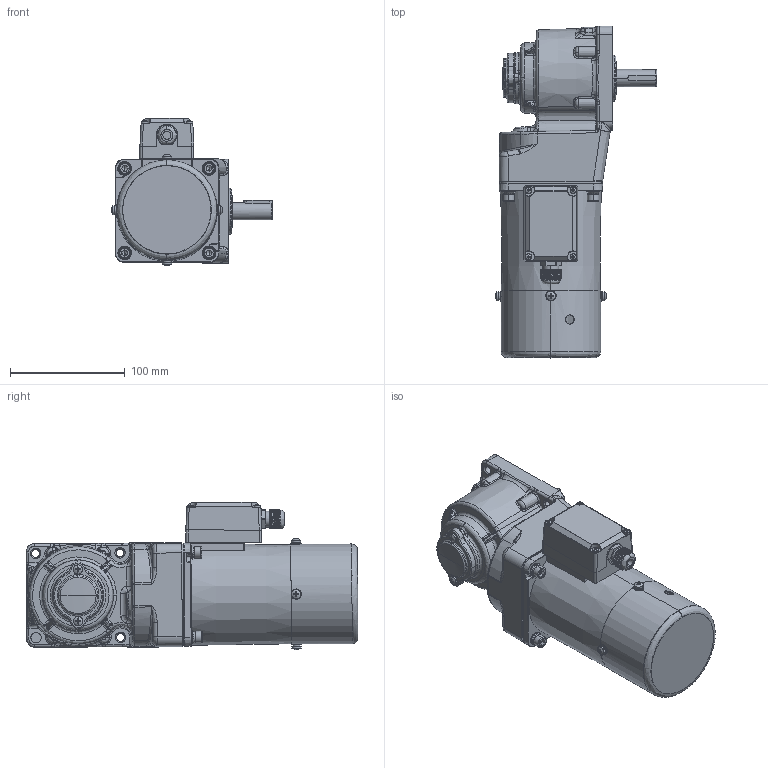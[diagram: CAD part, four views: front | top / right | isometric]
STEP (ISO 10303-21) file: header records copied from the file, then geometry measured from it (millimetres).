
FILE_DESCRIPTION (( 'STEP AP203' ), '1' );
FILE_NAME ('5RK40GU-CMT(5GU3RT-180RT)ÐÂ.STEP', '2023-08-17T06:32:41', ( 'Windows User' ), ( 'P R C' ), 'SwSTEP 2.0', 'SolidWorks 2019', '' );
FILE_SCHEMA (( 'CONFIG_CONTROL_DESIGN' ));
Length unit declared in the file: millimetre
Products named in the file (10): zd-5gu-50rc-504-001m#________ 2021-12-07 - ____^5RK40GU-CMT(5GU3RT-180RT)陔(2)_5RK40GU-CMT(5GU3RT-180RT)陔; 90__________^5RK40GU-CMT(5GU3RT-180RT)陔(2)_5RK40GU-CMT(5GU3RT-180RT)陔; 90RT____________^5RK40GU-CMT(5GU3RT-180RT)陔(2)_5RK40GU-CMT(5GU3RT-180RT)陔; 5RK40GU-CMT(5GU3RT-180RT)陔(2)^5RK40GU-CMT(5GU3RT-180RT)陔; 5RK40GU-CMT(5GU3RC-180RC)^5RK40GU-CMT(5GU3RT-180RT)ÐÂ(2)_5RK40GU-CMT(5GU3RT-180RT)ÐÂ; hexagon socket head cap screws gb_GB_FASTENER_SCREWS_HSHCS M5X12-N^5RK40GU-CMT(5GU3RT-180RT)ÐÂ(2)_5RK40GU-CMT(5GU3RT-180RT)ÐÂ; 90____^5RK40GU-CMT(5GU3RT-180RT)陔(2)_5RK40GU-CMT(5GU3RT-180RT)陔; 5RK40GU-CMT(5GU3RT-180RT)陔; cross recessed pan head screws gb_GB_CROSS_SCREWS_TYPE1 M4X6-6  H type-N^5RK40GU-CMT(5GU3RT-180RT)ÐÂ(2)_5RK40GU-CMT(5GU3RT-180RT)ÐÂ; ZD-5GU50RC-505-003______^5RK40GU-CMT(5GU3RT-180RT)陔(2)_5RK40GU-CMT(5GU3RT-180RT)陔
Assembly tree (13 placements, depth 3):
  5RK40GU-CMT(5GU3RT-180RT)陔
    5RK40GU-CMT(5GU3RT-180RT)陔(2)^5RK40GU-CMT(5GU3RT-180RT)陔
      zd-5gu-50rc-504-001m#________ 2021-12-07 - ____^5RK40GU-CMT(5GU3RT-180RT)陔(2)_5RK40GU-CMT(5GU3RT-180RT)陔
      90__________^5RK40GU-CMT(5GU3RT-180RT)陔(2)_5RK40GU-CMT(5GU3RT-180RT)陔
      90____^5RK40GU-CMT(5GU3RT-180RT)陔(2)_5RK40GU-CMT(5GU3RT-180RT)陔
      ZD-5GU50RC-505-003______^5RK40GU-CMT(5GU3RT-180RT)陔(2)_5RK40GU-CMT(5GU3RT-180RT)陔
      90RT____________^5RK40GU-CMT(5GU3RT-180RT)陔(2)_5RK40GU-CMT(5GU3RT-180RT)陔
      hexagon socket head cap screws gb_GB_FASTENER_SCREWS_HSHCS M5X12-N^5RK40GU-CMT(5GU3RT-180RT)ÐÂ(2)_5RK40GU-CMT(5GU3RT-180RT)ÐÂ  x4
      cross recessed pan head screws gb_GB_CROSS_SCREWS_TYPE1 M4X6-6  H type-N^5RK40GU-CMT(5GU3RT-180RT)ÐÂ(2)_5RK40GU-CMT(5GU3RT-180RT)ÐÂ  x2
      5RK40GU-CMT(5GU3RC-180RC)^5RK40GU-CMT(5GU3RT-180RT)ÐÂ(2)_5RK40GU-CMT(5GU3RT-180RT)ÐÂ
Bounding box: 140.35 x 288.96 x 128.29 mm (x, y, z)
Volume: 910883.9 mm3; surface area: 233782.8 mm2
Topology: 39 solids, 50 shells, 2790 faces, 6928 edges, 4171 vertices
Faces by surface type: plane 756, cylinder 707, cone 688, bspline 538, torus 91, sphere 10
Entity records: 116563 total; most frequent: CARTESIAN_POINT 58777, ORIENTED_EDGE 13104, DIRECTION 10088, EDGE_CURVE 6554, AXIS2_PLACEMENT_3D 4078, VERTEX_POINT 4029, EDGE_LOOP 2823, FACE_OUTER_BOUND 2690
